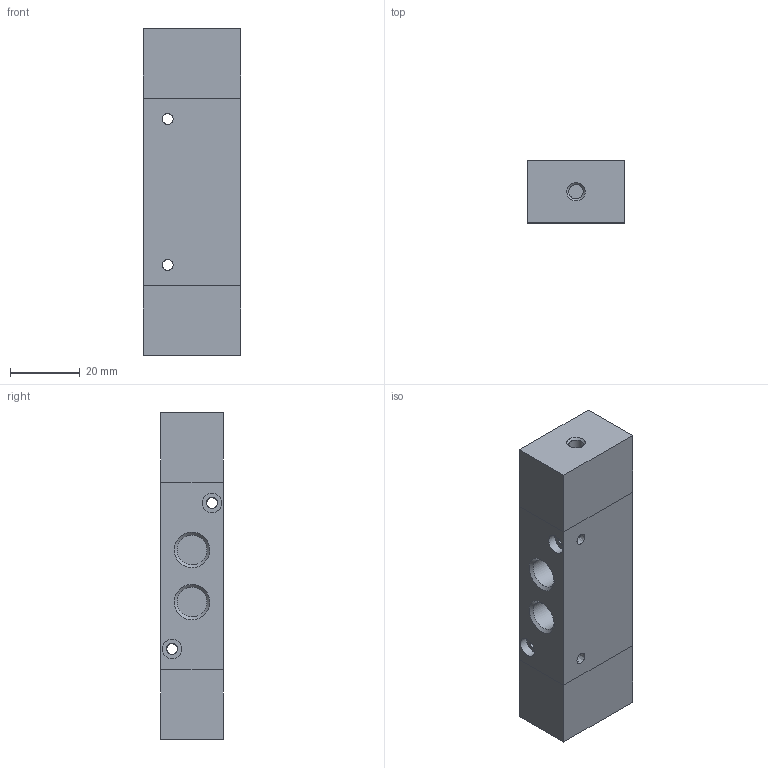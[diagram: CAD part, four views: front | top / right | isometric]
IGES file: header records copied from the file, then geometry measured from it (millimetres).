
Global section: file name: 808_52_11_11; native system: Autodesk Inventor 2017; preprocessor: unknown; organization: Pneumax S.p.A.; date: 20180116.113357; units: millimetre
Bounding box: 28 x 18 x 94 mm (x, y, z)
Volume: 43969.2 mm3; surface area: 11692.2 mm2
Topology: 1 solids, 1 shells, 49 faces, 130 edges, 90 vertices
Faces by surface type: bspline 49
